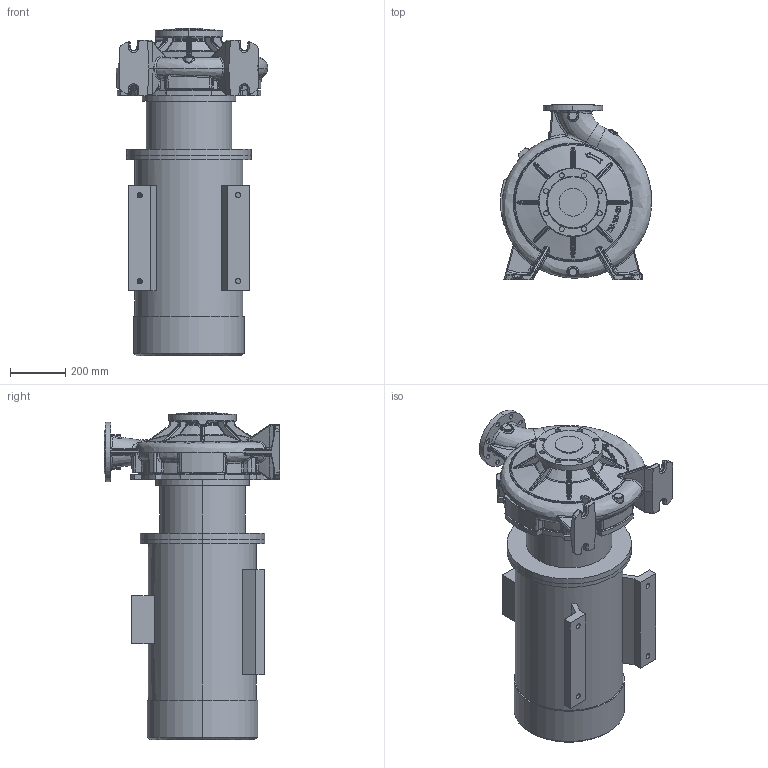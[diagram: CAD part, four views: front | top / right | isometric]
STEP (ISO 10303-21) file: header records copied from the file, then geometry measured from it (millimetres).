
FILE_DESCRIPTION (( 'STEP AP214' ), '1' );
FILE_NAME ('KRM 125-100-400-4-45.STEP', '2026-04-20T07:45:58', ( '' ), ( '' ), 'SwSTEP 2.0', 'SolidWorks 2016', '' );
FILE_SCHEMA (( 'AUTOMOTIVE_DESIGN' ));
Length unit declared in the file: millimetre
Products named in the file (1): KRM 125-100-400-4-45
Bounding box: 547.63 x 635 x 1185.3 mm (x, y, z)
Volume: 150035974.2 mm3; surface area: 3684107.3 mm2
Topology: 12 solids, 12 shells, 1382 faces, 3301 edges, 1957 vertices
Faces by surface type: bspline 580, plane 279, cylinder 270, torus 106, cone 92, sphere 55
Entity records: 107320 total; most frequent: CARTESIAN_POINT 64684, ORIENTED_EDGE 6536, DIRECTION 4602, EDGE_CURVE 3268, AXIS2_PLACEMENT_3D 1963, VERTEX_POINT 1957, EDGE_LOOP 1453, UNCERTAINTY_MEASURE_WITH_UNIT 1396
